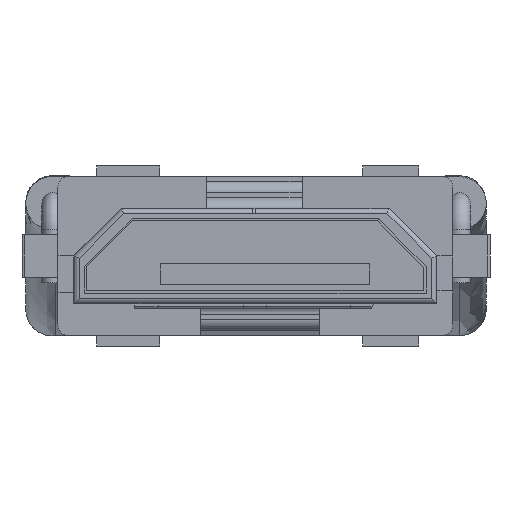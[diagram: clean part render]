
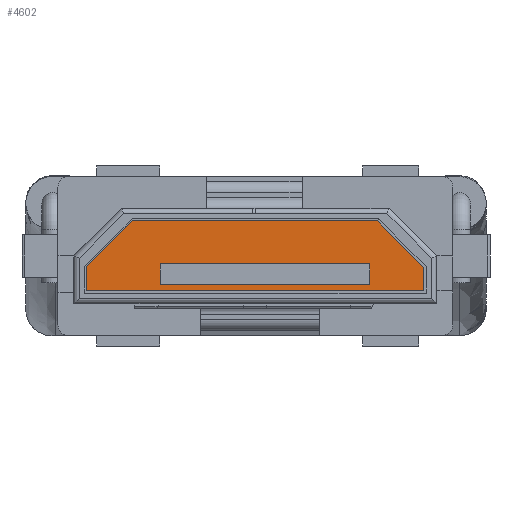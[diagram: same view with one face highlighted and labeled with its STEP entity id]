
A CAD part, front view. The second image highlights one B-rep face of the part: STEP entity #4602.
In plain terms, the highlighted planar face has unit normal (0, -1, 0) as drawn and (0, 1, 0) by its records, which use the part's own axes.
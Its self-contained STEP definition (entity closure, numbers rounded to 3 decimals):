
#4464 = VERTEX_POINT('',#4465);
#4465 = CARTESIAN_POINT('',(6.605,6.5,-0.241));
#4471 = EDGE_CURVE('',#4472,#4464,#4474,.T.);
#4472 = VERTEX_POINT('',#4473);
#4473 = CARTESIAN_POINT('',(0.231,6.5,-0.241));
#4474 = LINE('',#4475,#4476);
#4475 = CARTESIAN_POINT('',(6.605,6.5,-0.241));
#4476 = VECTOR('',#4477,1.);
#4477 = DIRECTION('',(1.,0.,0.));
#4495 = VERTEX_POINT('',#4496);
#4496 = CARTESIAN_POINT('',(6.605,6.5,-0.682));
#4502 = EDGE_CURVE('',#4464,#4495,#4503,.T.);
#4503 = LINE('',#4504,#4505);
#4504 = CARTESIAN_POINT('',(6.605,6.5,-0.682));
#4505 = VECTOR('',#4506,1.);
#4506 = DIRECTION('',(0.,0.,-1.));
#4519 = VERTEX_POINT('',#4520);
#4520 = CARTESIAN_POINT('',(5.729,6.5,-1.561));
#4526 = EDGE_CURVE('',#4495,#4519,#4527,.T.);
#4527 = LINE('',#4528,#4529);
#4528 = CARTESIAN_POINT('',(5.729,6.5,-1.561));
#4529 = VECTOR('',#4530,1.);
#4530 = DIRECTION('',(-0.706,0.,-0.708));
#4543 = VERTEX_POINT('',#4544);
#4544 = CARTESIAN_POINT('',(1.101,6.5,-1.561));
#4550 = EDGE_CURVE('',#4519,#4543,#4551,.T.);
#4551 = LINE('',#4552,#4553);
#4552 = CARTESIAN_POINT('',(1.101,6.5,-1.561));
#4553 = VECTOR('',#4554,1.);
#4554 = DIRECTION('',(-1.,0.,0.));
#4567 = VERTEX_POINT('',#4568);
#4568 = CARTESIAN_POINT('',(0.231,6.5,-0.695));
#4574 = EDGE_CURVE('',#4543,#4567,#4575,.T.);
#4575 = LINE('',#4576,#4577);
#4576 = CARTESIAN_POINT('',(0.231,6.5,-0.695));
#4577 = VECTOR('',#4578,1.);
#4578 = DIRECTION('',(-0.708,0.,0.706));
#4591 = EDGE_CURVE('',#4567,#4472,#4592,.T.);
#4592 = LINE('',#4593,#4594);
#4593 = CARTESIAN_POINT('',(0.231,6.5,-0.241));
#4594 = VECTOR('',#4595,1.);
#4595 = DIRECTION('',(0.,0.,1.));
#4602 = ADVANCED_FACE('',(#4603,#4637),#4645,.F.);
#4603 = FACE_BOUND('',#4604,.T.);
#4604 = EDGE_LOOP('',(#4605,#4615,#4623,#4631));
#4605 = ORIENTED_EDGE('',*,*,#4606,.F.);
#4606 = EDGE_CURVE('',#4607,#4609,#4611,.T.);
#4607 = VERTEX_POINT('',#4608);
#4608 = CARTESIAN_POINT('',(1.628,6.5,-0.361));
#4609 = VERTEX_POINT('',#4610);
#4610 = CARTESIAN_POINT('',(5.581,6.5,-0.361));
#4611 = LINE('',#4612,#4613);
#4612 = CARTESIAN_POINT('',(1.628,6.5,-0.361));
#4613 = VECTOR('',#4614,1.);
#4614 = DIRECTION('',(1.,0.,0.));
#4615 = ORIENTED_EDGE('',*,*,#4616,.F.);
#4616 = EDGE_CURVE('',#4617,#4607,#4619,.T.);
#4617 = VERTEX_POINT('',#4618);
#4618 = CARTESIAN_POINT('',(1.628,6.5,-0.753));
#4619 = LINE('',#4620,#4621);
#4620 = CARTESIAN_POINT('',(1.628,6.5,-0.753));
#4621 = VECTOR('',#4622,1.);
#4622 = DIRECTION('',(0.,0.,1.));
#4623 = ORIENTED_EDGE('',*,*,#4624,.F.);
#4624 = EDGE_CURVE('',#4625,#4617,#4627,.T.);
#4625 = VERTEX_POINT('',#4626);
#4626 = CARTESIAN_POINT('',(5.581,6.5,-0.753));
#4627 = LINE('',#4628,#4629);
#4628 = CARTESIAN_POINT('',(1.628,6.5,-0.753));
#4629 = VECTOR('',#4630,1.);
#4630 = DIRECTION('',(-1.,0.,0.));
#4631 = ORIENTED_EDGE('',*,*,#4632,.F.);
#4632 = EDGE_CURVE('',#4609,#4625,#4633,.T.);
#4633 = LINE('',#4634,#4635);
#4634 = CARTESIAN_POINT('',(5.581,6.5,-0.753));
#4635 = VECTOR('',#4636,1.);
#4636 = DIRECTION('',(0.,0.,-1.));
#4637 = FACE_BOUND('',#4638,.T.);
#4638 = EDGE_LOOP('',(#4639,#4640,#4641,#4642,#4643,#4644));
#4639 = ORIENTED_EDGE('',*,*,#4471,.T.);
#4640 = ORIENTED_EDGE('',*,*,#4502,.T.);
#4641 = ORIENTED_EDGE('',*,*,#4526,.T.);
#4642 = ORIENTED_EDGE('',*,*,#4550,.T.);
#4643 = ORIENTED_EDGE('',*,*,#4574,.T.);
#4644 = ORIENTED_EDGE('',*,*,#4591,.T.);
#4645 = PLANE('',#4646);
#4646 = AXIS2_PLACEMENT_3D('',#4647,#4648,#4649);
#4647 = CARTESIAN_POINT('',(0.,6.5,0.));
#4648 = DIRECTION('',(0.,-1.,0.));
#4649 = DIRECTION('',(0.,0.,-1.));
